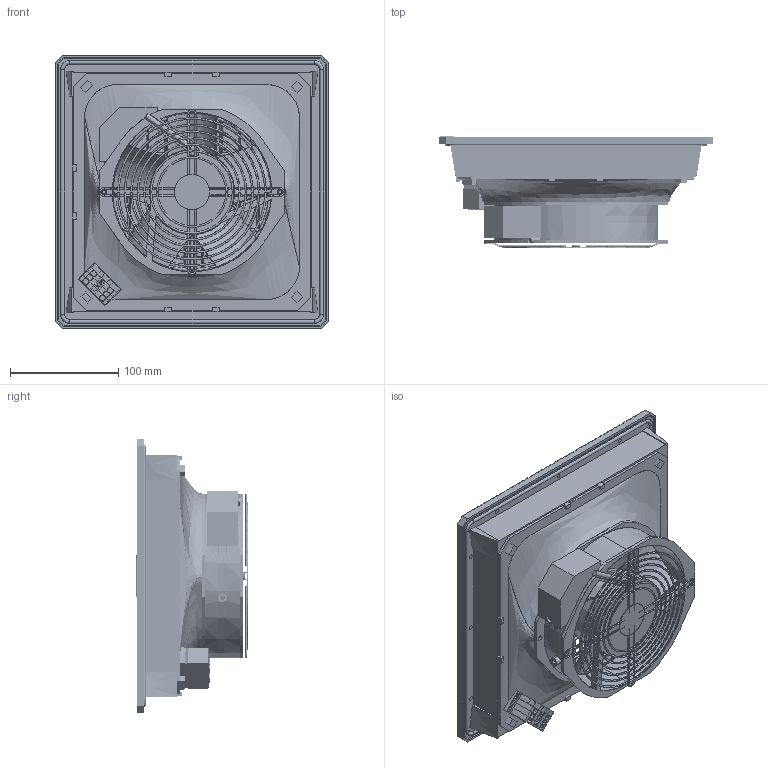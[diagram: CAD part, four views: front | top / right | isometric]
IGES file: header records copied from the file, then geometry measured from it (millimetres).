
Start section: SolidWorks IGES file using analytic representation for surfaces
Global section: file name: L:\Documents for Pfannenberg Products\IGES - External Use\30165 PF + PFA 4xxxx\30165-970a_PF 42500_AC_PDG.IGS; native system: SolidWorks 2021; preprocessor: SolidWorks 2021; author: pdg_sj; date: 220711.122223; units: millimetre
Bounding box: 252 x 104 x 252 mm (x, y, z)
Surface area: 539371.4 mm2 (no closed solid volume)
Topology: 0 solids, 0 shells, 2060 faces, 29657 edges, 29617 vertices
Faces by surface type: bspline 1425, revolution 635
